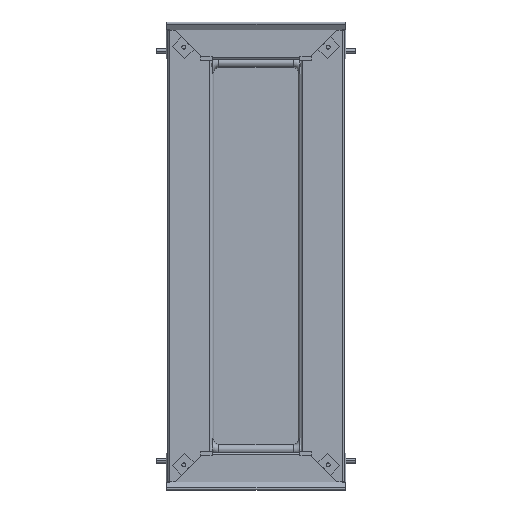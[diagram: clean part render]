
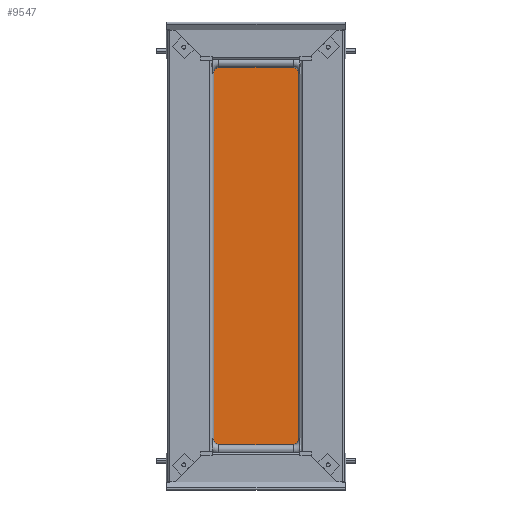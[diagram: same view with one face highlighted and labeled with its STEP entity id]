
A CAD part, front view. The second image highlights one B-rep face of the part: STEP entity #9547.
In plain terms, the highlighted planar face has unit normal (0, -1, 0).
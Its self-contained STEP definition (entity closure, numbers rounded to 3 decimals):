
#1112=DIRECTION('',(-1.,0.,0.));
#1113=VECTOR('',#1112,94.);
#1114=CARTESIAN_POINT('',(159.5,35.75,530.));
#1115=LINE('',#1114,#1113);
#1141=CARTESIAN_POINT('',(159.5,35.75,524.));
#1142=DIRECTION('',(0.,1.,0.));
#1143=DIRECTION('',(0.,0.,1.));
#1144=AXIS2_PLACEMENT_3D('',#1141,#1142,#1143);
#1146=CARTESIAN_POINT('',(159.5,35.75,63.));
#1147=DIRECTION('',(0.,1.,0.));
#1148=DIRECTION('',(1.,0.,0.));
#1149=AXIS2_PLACEMENT_3D('',#1146,#1147,#1148);
#1151=CARTESIAN_POINT('',(65.5,35.75,63.));
#1152=DIRECTION('',(0.,1.,0.));
#1153=DIRECTION('',(0.,0.,-1.));
#1154=AXIS2_PLACEMENT_3D('',#1151,#1152,#1153);
#1156=CARTESIAN_POINT('',(65.5,35.75,524.));
#1157=DIRECTION('',(0.,1.,0.));
#1158=DIRECTION('',(-1.,0.,0.));
#1159=AXIS2_PLACEMENT_3D('',#1156,#1157,#1158);
#1161=DIRECTION('',(0.,0.,1.));
#1162=VECTOR('',#1161,461.);
#1163=CARTESIAN_POINT('',(165.5,35.75,63.));
#1164=LINE('',#1163,#1162);
#1779=DIRECTION('',(0.,0.,-1.));
#1780=VECTOR('',#1779,461.);
#1781=CARTESIAN_POINT('',(59.5,35.75,524.));
#1782=LINE('',#1781,#1780);
#3575=DIRECTION('',(1.,0.,0.));
#3576=VECTOR('',#3575,94.);
#3577=CARTESIAN_POINT('',(65.5,35.75,57.));
#3578=LINE('',#3577,#3576);
#6778=CARTESIAN_POINT('',(159.5,35.75,530.));
#6779=VERTEX_POINT('',#6778);
#6780=CARTESIAN_POINT('',(65.5,35.75,530.));
#6781=VERTEX_POINT('',#6780);
#6782=CARTESIAN_POINT('',(165.5,35.75,524.));
#6783=VERTEX_POINT('',#6782);
#6789=CARTESIAN_POINT('',(165.5,35.75,63.));
#6790=VERTEX_POINT('',#6789);
#6791=CARTESIAN_POINT('',(159.5,35.75,57.));
#6792=VERTEX_POINT('',#6791);
#6793=CARTESIAN_POINT('',(65.5,35.75,57.));
#6794=VERTEX_POINT('',#6793);
#6795=CARTESIAN_POINT('',(59.5,35.75,63.));
#6796=VERTEX_POINT('',#6795);
#6797=CARTESIAN_POINT('',(59.5,35.75,524.));
#6798=VERTEX_POINT('',#6797);
#9526=CARTESIAN_POINT('',(193.,35.75,44.5));
#9527=DIRECTION('',(0.,1.,0.));
#9528=DIRECTION('',(0.,0.,1.));
#9529=AXIS2_PLACEMENT_3D('',#9526,#9527,#9528);
#9530=PLANE('',#9529);
#9531=ORIENTED_EDGE('',*,*,#9498,.F.);
#9532=ORIENTED_EDGE('',*,*,#9510,.T.);
#9534=ORIENTED_EDGE('',*,*,#9533,.F.);
#9536=ORIENTED_EDGE('',*,*,#9535,.T.);
#9538=ORIENTED_EDGE('',*,*,#9537,.F.);
#9540=ORIENTED_EDGE('',*,*,#9539,.T.);
#9542=ORIENTED_EDGE('',*,*,#9541,.F.);
#9544=ORIENTED_EDGE('',*,*,#9543,.T.);
#9545=EDGE_LOOP('',(#9531,#9532,#9534,#9536,#9538,#9540,#9542,#9544));
#9546=FACE_OUTER_BOUND('',#9545,.F.);
#1145=CIRCLE('',#1144,6.);
#1150=CIRCLE('',#1149,6.);
#1155=CIRCLE('',#1154,6.);
#1160=CIRCLE('',#1159,6.);
#9498=EDGE_CURVE('',#6779,#6781,#1115,.T.);
#9510=EDGE_CURVE('',#6779,#6783,#1145,.T.);
#9533=EDGE_CURVE('',#6790,#6783,#1164,.T.);
#9535=EDGE_CURVE('',#6790,#6792,#1150,.T.);
#9537=EDGE_CURVE('',#6794,#6792,#3578,.T.);
#9539=EDGE_CURVE('',#6794,#6796,#1155,.T.);
#9541=EDGE_CURVE('',#6798,#6796,#1782,.T.);
#9543=EDGE_CURVE('',#6798,#6781,#1160,.T.);
#9547=ADVANCED_FACE('',(#9546),#9530,.F.);
